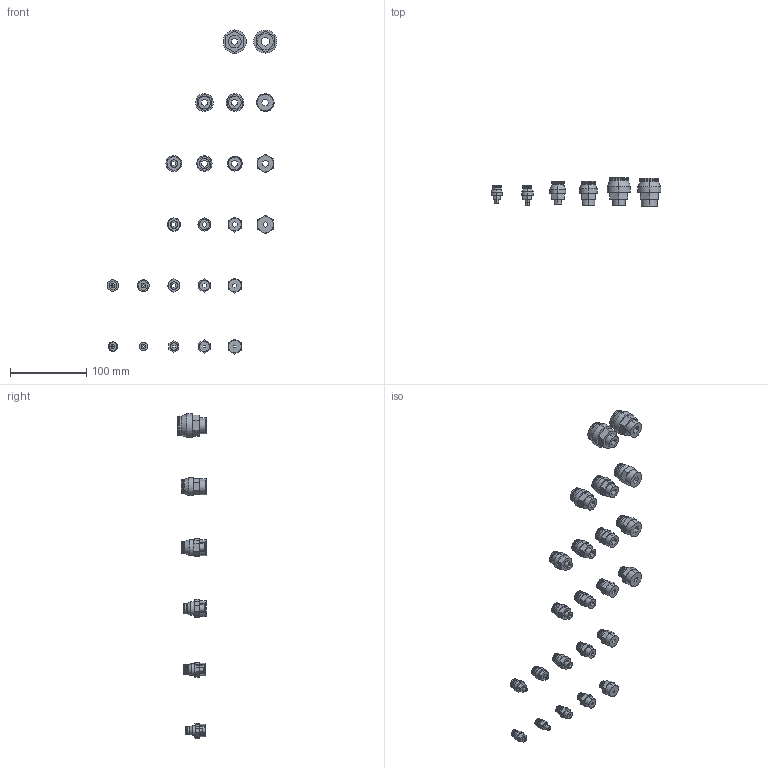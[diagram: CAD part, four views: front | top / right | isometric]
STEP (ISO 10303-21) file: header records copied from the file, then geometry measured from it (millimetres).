
FILE_DESCRIPTION (( 'STEP AP214' ), '1' );
FILE_NAME ('CONEXÃO RETA.STEP', '2019-03-25T04:26:47', ( '' ), ( '' ), 'SwSTEP 2.0', 'SolidWorks 2017', '' );
FILE_SCHEMA (( 'AUTOMOTIVE_DESIGN' ));
Length unit declared in the file: millimetre
Products named in the file (24): CONEXÃO RETA; Ø6 x 3-8G - CONEXÃO RETA (C02250638); Ø6 x M6 - CONEXÃO RETA (C02250606); Ø4 x 3-8G - CONEXÃO RETA (C02250438); Ø10 x 3-8G - CONEXÃO RETA (C02251038); Ø8 x 1-2G - CONEXÃO RETA (C02250848); Ø6 x 1-4G - CONEXÃO RETA (C02250628); Ø10 x 1-4G - CONEXÃO RETA (C02251028); Ø6 x M5 - CONEXÃO RETA (C02250605); Ø10 x 1-2G - CONEXÃO RETA (C02251048); Ø8 x 1-8G - CONEXÃO RETA (C02250818); Ø8 x 3-8G - CONEXÃO RETA (C02250838); Ø8 x 1-4G - CONEXÃO RETA (C02250828); Ø12 x 1-4G - CONEXÃO RETA (C02251228); Ø16 x 3-8G - CONEXÃO RETA (C02251638); Ø4 x M5 - CONEXÃO RETA (C02250405); Ø4 x 1-4G - CONEXÃO RETA (C02250428); Ø10 x 1-8G - CONEXÃO RETA (C02251018); Ø4 x 1-8G - CONEXÃO RETA (C02250418); Ø6 x 1-8G - CONEXÃO RETA (C02250618); Ø12 x 3-8G - CONEXÃO RETA (C02251238); Ø16 x 1-2G - CONEXÃO RETA (C02251648); Ø12 x 1-2G - CONEXÃO RETA (C02251248); Ø4 x M6 - CONEXÃO RETA (C02250406)
Assembly tree (23 placements, depth 2):
  CONEXÃO RETA
    Ø4 x M5 - CONEXÃO RETA (C02250405)
    Ø4 x M6 - CONEXÃO RETA (C02250406)
    Ø4 x 1-8G - CONEXÃO RETA (C02250418)
    Ø4 x 1-4G - CONEXÃO RETA (C02250428)
    Ø4 x 3-8G - CONEXÃO RETA (C02250438)
    Ø6 x M5 - CONEXÃO RETA (C02250605)
    Ø6 x M6 - CONEXÃO RETA (C02250606)
    Ø6 x 1-8G - CONEXÃO RETA (C02250618)
    Ø6 x 1-4G - CONEXÃO RETA (C02250628)
    Ø6 x 3-8G - CONEXÃO RETA (C02250638)
    Ø8 x 1-8G - CONEXÃO RETA (C02250818)
    Ø8 x 1-4G - CONEXÃO RETA (C02250828)
    Ø8 x 3-8G - CONEXÃO RETA (C02250838)
    Ø8 x 1-2G - CONEXÃO RETA (C02250848)
    Ø10 x 1-8G - CONEXÃO RETA (C02251018)
    Ø10 x 1-4G - CONEXÃO RETA (C02251028)
    Ø10 x 3-8G - CONEXÃO RETA (C02251038)
    Ø10 x 1-2G - CONEXÃO RETA (C02251048)
    Ø12 x 1-4G - CONEXÃO RETA (C02251228)
    Ø12 x 3-8G - CONEXÃO RETA (C02251238)
    Ø12 x 1-2G - CONEXÃO RETA (C02251248)
    Ø16 x 3-8G - CONEXÃO RETA (C02251638)
    Ø16 x 1-2G - CONEXÃO RETA (C02251648)
Bounding box: 222.62 x 37.5 x 425.1 mm (x, y, z)
Volume: 111407.9 mm3; surface area: 60419.5 mm2
Topology: 23 solids, 23 shells, 814 faces, 1822 edges, 1164 vertices
Faces by surface type: plane 492, cylinder 276, cone 46
Entity records: 26222 total; most frequent: DIRECTION 4114, CARTESIAN_POINT 3826, ORIENTED_EDGE 3644, EDGE_CURVE 1822, AXIS2_PLACEMENT_3D 1452, VECTOR 1210, LINE 1210, VERTEX_POINT 1164
